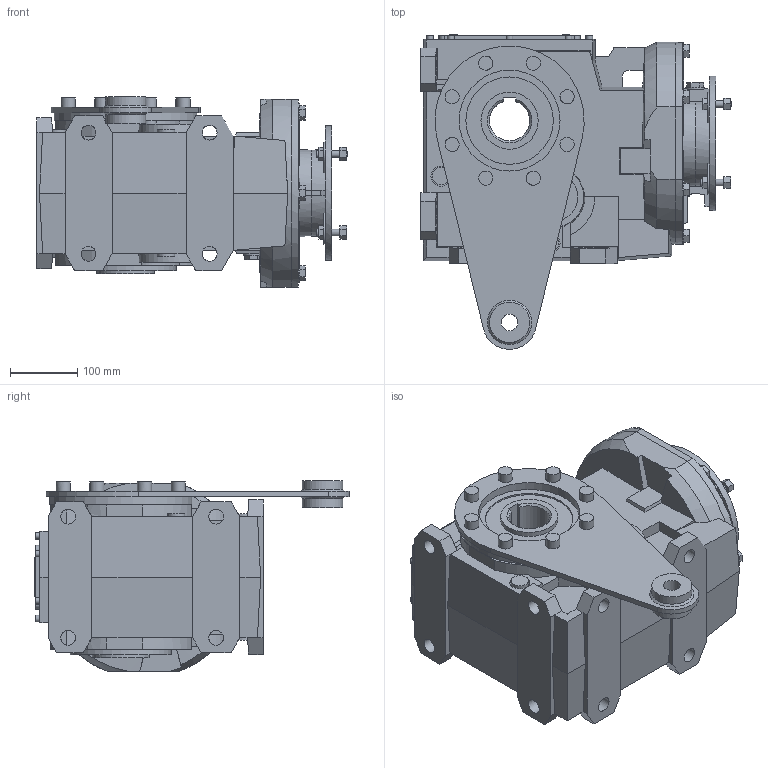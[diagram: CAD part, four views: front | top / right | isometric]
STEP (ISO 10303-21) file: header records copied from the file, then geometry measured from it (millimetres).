
FILE_DESCRIPTION(/* description */ ('STEP AP203'),/* implementation_level */ '2;1');
FILE_NAME(/* name */ 'B123UC90_B5600000110NO----_---------------',/* time_stamp */ '2025-12-18T08:50:27+01:00',/* author */ ('License CC BY-ND 4.0'),/* organization */ ('CADENAS'),/* preprocessor_version */ 'ST-DEVELOPER v20',/* originating_system */ 'PARTsolutions',/* authorisation */ ' ');
FILE_SCHEMA (('CONFIG_CONTROL_DESIGN'));
Length unit declared in the file: millimetre
Products named in the file (6): B123UC90 B5600000110NO----(---------------); 123-U-85; 123-60-C; 123-300U-B12508_1; 123-B-200x24(90 B51); B123-200x24
Assembly tree (5 placements, depth 2):
  B123UC90 B5600000110NO----(---------------)
    123-U-85
    123-60-C
    123-300U-B12508_1
    123-B-200x24(90 B51)
    B123-200x24
Bounding box: 461.5 x 468 x 283.5 mm (x, y, z)
Volume: 23937678.1 mm3; surface area: 1280473.4 mm2
Topology: 5 solids, 5 shells, 798 faces, 2058 edges, 1362 vertices
Faces by surface type: plane 571, cylinder 162, cone 64, torus 1
Full cylindrical faces by diameter (mm): 9.1 x3, 10 x18, 11.835 x14, 12 x4, 21 x16, 22 x8, 25 x1, 26 x3, 28 x2, 30 x5, 32 x1, 39.5 x1, 60 x2, 72 x2, 85 x2, 130 x3, 150 x3, 200 x1, 212 x1, 250 x2
Entity records: 23370 total; most frequent: CARTESIAN_POINT 4296, DIRECTION 3852, ORIENTED_EDGE 3738, EDGE_CURVE 1869, VERTEX_POINT 1323, LINE 1298, VECTOR 1298, AXIS2_PLACEMENT_3D 1277
